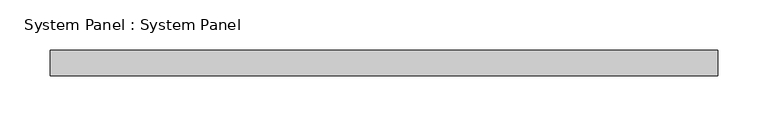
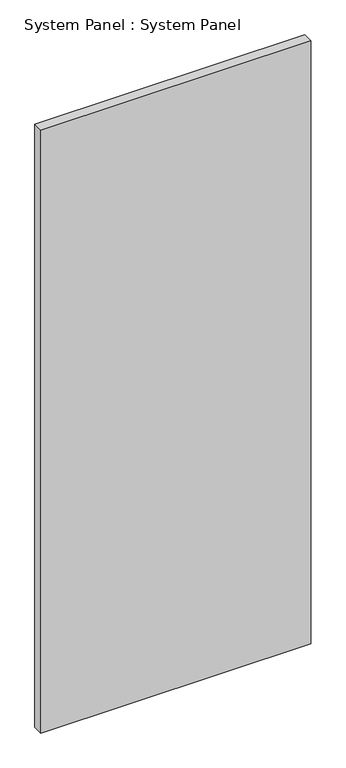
"""IFC4 building model written with IfcOpenShell, lengths in millimetres: plate geometry, System Panel : System Panel."""

from ifc_helpers import new_model, si_unit, origin, origin_with_axes, place, context, project, spatial, polyline, outline, extrude, source, transform, mapped, element, save


def system_panel_system_panel_0a04209b(model_context):
    return source(origin(), model_context, "Body", "SweptSolid", [
        extrude(outline(polyline([(333.375, 19.05), (-333.375, 19.05), (-333.375, 44.45), (333.375, 44.45), (333.375, 19.05)])), origin_with_axes(), (0.0, 0.0, 1.0), 1574.8),
    ])


if __name__ == "__main__":
    model = new_model("IFC4")
    model_context = context("Model", 3, world=origin())
    ifc_project = project(units=[si_unit("LENGTHUNIT", "METRE", prefix="MILLI")], contexts=[model_context])
    site = spatial("IfcSite", under=ifc_project)
    building = spatial("IfcBuilding", under=site)
    placement = place(None, origin())
    system_panel_system_panel_shape = system_panel_system_panel_0a04209b(model_context)
    element("IfcPlate", 1, ObjectType="System Panel : System Panel", at=placement, inside=building, context=model_context, shape_type="MappedRepresentation", body=[
        mapped(system_panel_system_panel_shape, transform((0.0, 0.0, 0.0), x_axis=(1.0, 0.0, 0.0), y_axis=(0.0, 1.0, 0.0), z_axis=(0.0, 0.0, 1.0))),
    ])
    save(model, "model.ifc")
